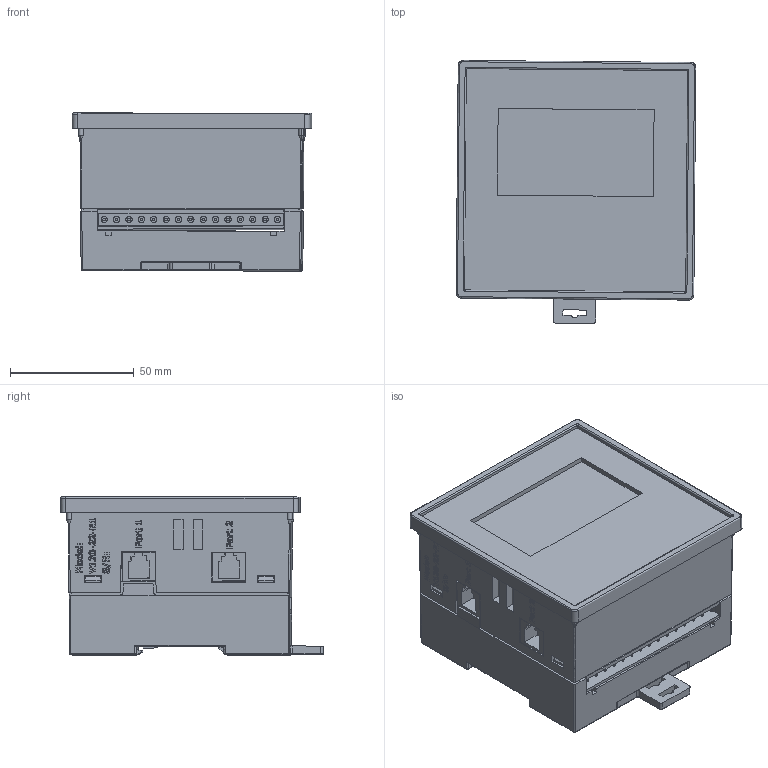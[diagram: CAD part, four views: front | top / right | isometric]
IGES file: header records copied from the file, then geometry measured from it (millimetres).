
Start section: SolidWorks IGES file using analytic representation for surfaces
Global section: file name: Z:\Products\V120\CAD files\3D Files\V120-22-XX.IGS; native system: SolidWorks 2011; preprocessor: SolidWorks 2011; author: baraki; date: 120624.113840; units: millimetre
Bounding box: 96.8 x 106.18 x 63.83 mm (x, y, z)
Surface area: 142308.6 mm2 (no closed solid volume)
Topology: 0 solids, 0 shells, 1631 faces, 16475 edges, 16468 vertices
Faces by surface type: bspline 1357, revolution 274
